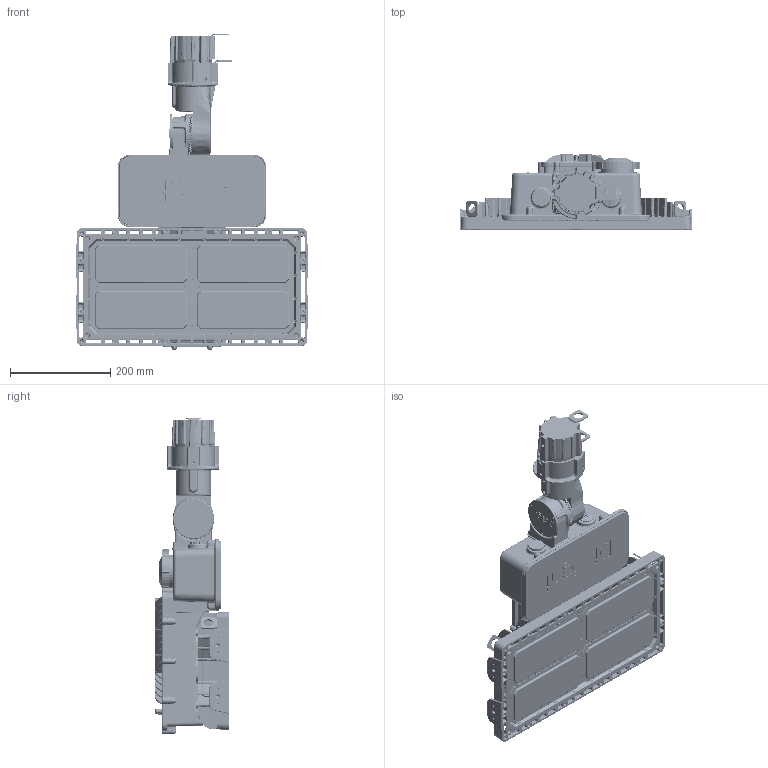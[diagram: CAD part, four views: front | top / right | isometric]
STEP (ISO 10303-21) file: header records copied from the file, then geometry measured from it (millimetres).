
FILE_DESCRIPTION((''),'2;1');
FILE_NAME('S1XXXXXXXSNXXG_MARKETING_ASM','2024-08-26T11:39:13',('cwang'),(''),'CREO PARAMETRIC BY PTC INC, 2021304','CREO PARAMETRIC BY PTC INC, 2021304','');
FILE_SCHEMA(('CONFIG_CONTROL_DESIGN'));
Products named in the file (31): 0000701231; 9300STL000401_1_1; 9300STL000403_1_1; SLXXXXX_PHOTOCELL_ASM_1_ASM_1_ASM; 9300STL000402_1_1; 0000701197; 0000701198; 0000701199; 0000701200; 0000701201; 0000701188_ASM; 0000701187_ASM; 0000701205; 0000701189_ASM; 0000701207; 0000701210; 0000701190_ASM; 0000701211; 0000701191_ASM; 0000701212; 0000701192_ASM; 0000701213; 0000701214; 0000701193_ASM; 0000701215; 0000701194_ASM; 0000701230; 0000701186_ASM; 0000701185_ASM; 0000701184_ASM; S1XXXXXXXSNXXG_MARKETING_ASM
Assembly tree (36 placements, depth 7):
  S1XXXXXXXSNXXG_MARKETING_ASM
    0000701184_ASM
      0000701185_ASM
        0000701186_ASM
          0000701231
          SLXXXXX_PHOTOCELL_ASM_1_ASM_1_ASM
            9300STL000401_1_1
            9300STL000403_1_1
          9300STL000402_1_1
          0000701197
          0000701187_ASM
            0000701198
            0000701199
            0000701188_ASM
              0000701200
              0000701201  x4
          0000701189_ASM
            0000701205
          0000701207  x2
          0000701190_ASM
            0000701210
          0000701191_ASM
            0000701211
            0000701207
          0000701192_ASM
            0000701212
          0000701193_ASM
            0000701213
            0000701214
            0000701207
          0000701194_ASM
            0000701215
          0000701230
Bounding box: 462.38 x 149.1 x 630.25 mm (x, y, z)
Volume: 9353654 mm3; surface area: 1504117.7 mm2
Topology: 24 solids, 261 shells, 18778 faces, 46816 edges, 28086 vertices
Faces by surface type: bspline 6074, plane 4784, cylinder 4485, torus 1676, cone 1253, sphere 498, extrusion 8
Entity records: 891410 total; most frequent: CARTESIAN_POINT 560172, ORIENTED_EDGE 76782, DIRECTION 56874, EDGE_CURVE 38843, VERTEX_POINT 23391, AXIS2_PLACEMENT_3D 22351, EDGE_LOOP 16489, FACE_OUTER_BOUND 15982
